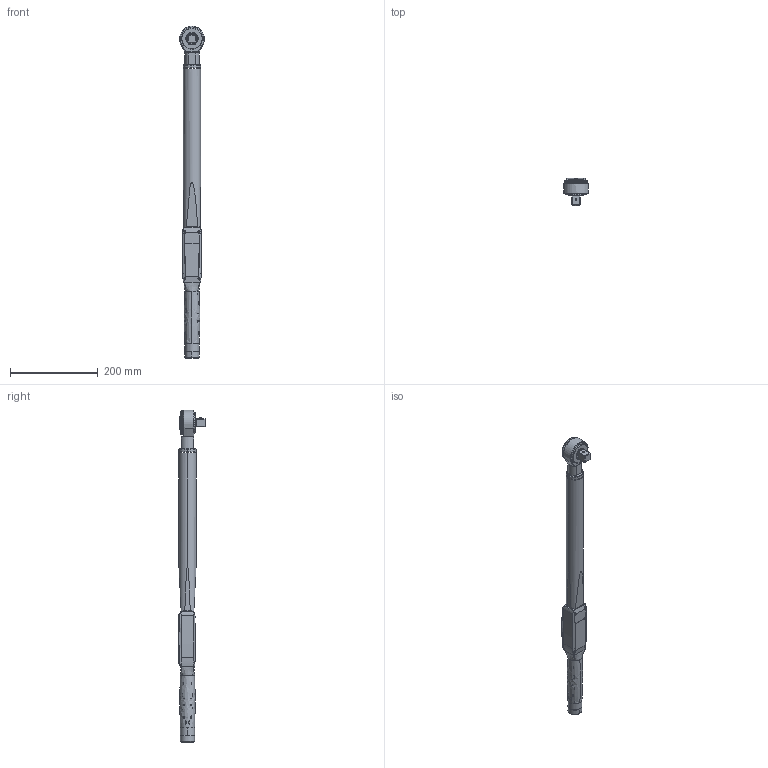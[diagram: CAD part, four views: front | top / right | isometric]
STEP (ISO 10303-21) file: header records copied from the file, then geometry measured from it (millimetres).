
FILE_DESCRIPTION((''),'2;1');
FILE_NAME('6152210380_DIM','2021-06-28T09:11:05',('S00000450'),(''),'CREO PARAMETRIC BY PTC INC, 2021072','CREO PARAMETRIC BY PTC INC, 2021072','');
FILE_SCHEMA(('AP242_MANAGED_MODEL_BASED_3D_ENGINEERING_MIM_LF { 1 0 10303 442 1 1 4 }'));
Length unit declared in the file: millimetre
Products named in the file (1): 6152210380_DIM
Bounding box: 56.56 x 62.45 x 754.92 mm (x, y, z)
Surface area: 108562.1 mm2 (no closed solid volume)
Topology: 0 solids, 354 shells, 508 faces, 2434 edges, 2260 vertices
Faces by surface type: plane 282, bspline 95, cylinder 67, cone 46, torus 10, extrusion 8
Entity records: 36706 total; most frequent: CARTESIAN_POINT 16786, ORIENTED_EDGE 2726, DIRECTION 2557, EDGE_CURVE 2434, VERTEX_POINT 2260, B_SPLINE_CURVE_WITH_KNOTS 1197, AXIS2_PLACEMENT_3D 899, VECTOR 759
